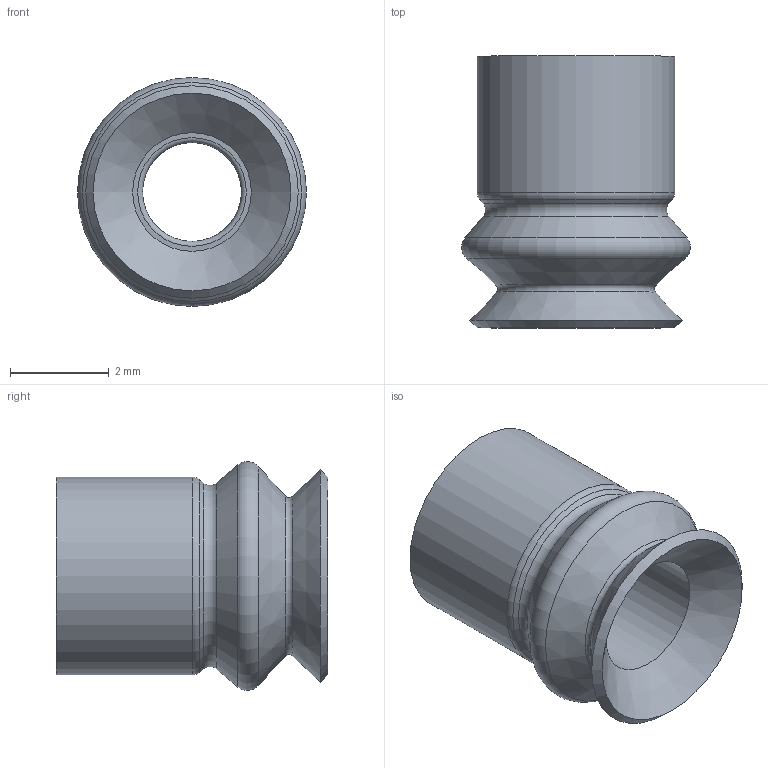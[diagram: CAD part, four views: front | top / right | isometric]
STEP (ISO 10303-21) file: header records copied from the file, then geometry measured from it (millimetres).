
FILE_DESCRIPTION(('STEP AP203'),'1');
FILE_NAME('_3D.stp','2025-02-13T07:44:28',(' '),(' '),'Spatial InterOp 3D',' ',' ');
FILE_SCHEMA(('CONFIG_CONTROL_DESIGN'));
Length unit declared in the file: millimetre
Products named in the file (1): 1
Bounding box: 4.63 x 5.5 x 4.63 mm (x, y, z)
Volume: 39.6 mm3; surface area: 139.4 mm2
Topology: 1 solids, 1 shells, 21 faces, 50 edges, 31 vertices
Faces by surface type: torus 8, cone 7, cylinder 4, plane 2
Full cylindrical faces by diameter (mm): 2 x1, 2.4 x1, 3 x1, 4 x1
Entity records: 472 total; most frequent: DIRECTION 86, CARTESIAN_POINT 64, AXIS2_PLACEMENT_3D 43, EDGE_LOOP 42, ORIENTED_EDGE 42, FACE_OUTER_BOUND 33, ADVANCED_FACE 21, EDGE_CURVE 21
